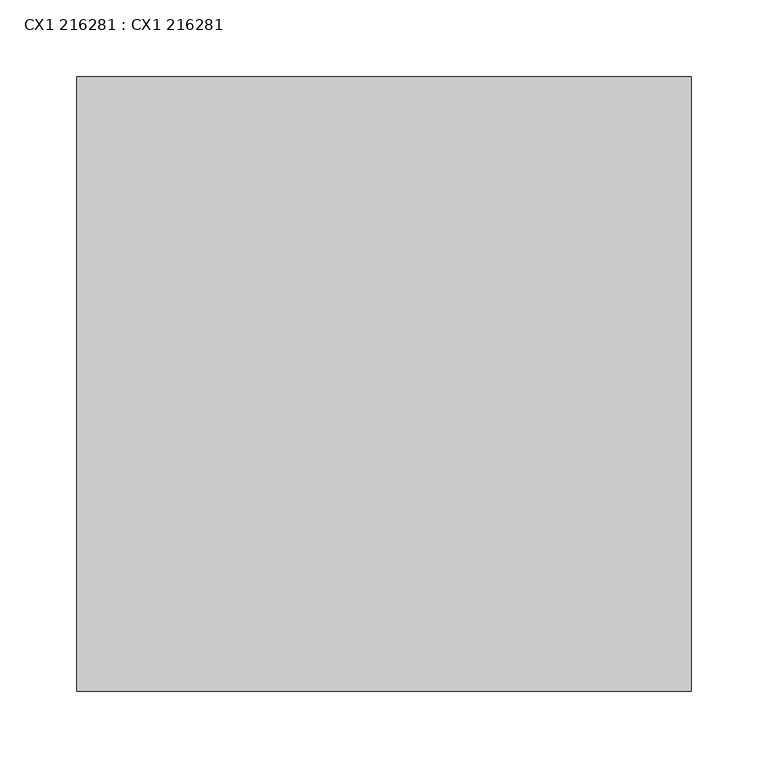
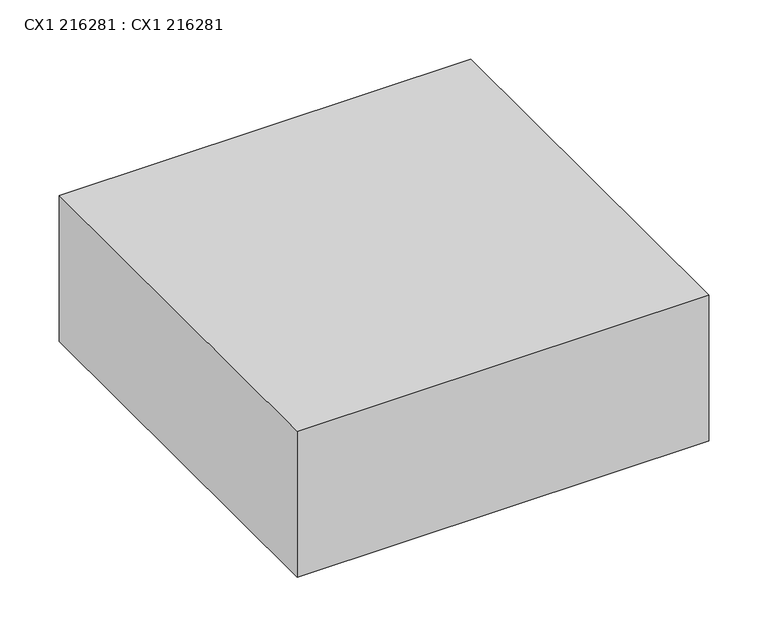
"""IFC4 building model written with IfcOpenShell, lengths in millimetres: proxy geometry, CX1 216281 : CX1 216281."""

from ifc_helpers import new_model, si_unit, frame, origin, place, context, project, spatial, polyline, outline, extrude, source, transform, mapped, element, save


def cx1_216281_cx1_216281_84bae6bb(model_context):
    return source(origin(), model_context, "Body", "SweptSolid", [
        extrude(outline(polyline([(24522.3, 13422.1), (24922.3, 13422.1), (24922.3, 13022.1), (24522.3, 13022.1), (24522.3, 13422.1)])), frame((0.0, 0.0, 2880.0), z_axis=(0.0, 0.0, 1.0), x_axis=(1.0, 0.0, 0.0)), (0.0, 0.0, 1.0), 150.0),
    ])


if __name__ == "__main__":
    model = new_model("IFC4")
    model_context = context("Model", 3, world=origin())
    ifc_project = project(units=[si_unit("LENGTHUNIT", "METRE", prefix="MILLI")], contexts=[model_context])
    site = spatial("IfcSite", under=ifc_project)
    building = spatial("IfcBuilding", under=site)
    placement = place(None, origin())
    cx1_216281_cx1_216281_shape = cx1_216281_cx1_216281_84bae6bb(model_context)
    element("IfcBuildingElementProxy", 1, Name="CX1 216281 : CX1 216281", ObjectType="CX1 216281 : CX1 216281", at=placement, inside=building, context=model_context, shape_type="MappedRepresentation", body=[
        mapped(cx1_216281_cx1_216281_shape, transform((0.0, 0.0, 0.0), x_axis=(1.0, 0.0, 0.0), y_axis=(0.0, 1.0, 0.0), z_axis=(0.0, 0.0, 1.0))),
    ])
    save(model, "model.ifc")
